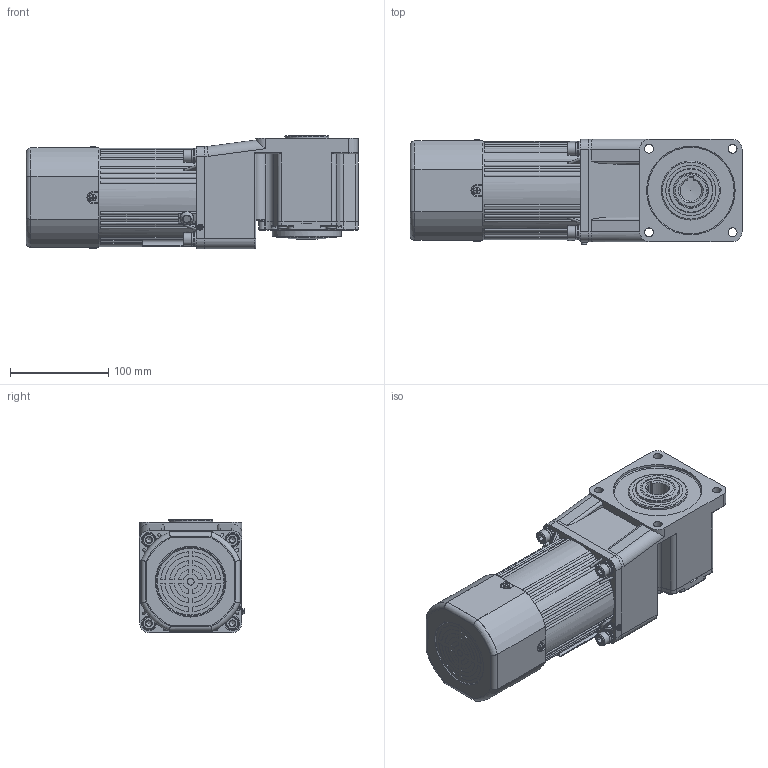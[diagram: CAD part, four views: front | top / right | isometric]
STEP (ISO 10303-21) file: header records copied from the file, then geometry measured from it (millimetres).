
FILE_DESCRIPTION(/* description */ (''),/* implementation_level */ '2;1');
FILE_NAME(/* name */ '100+直角中空-刹车调速风叶-120-140W 新版.stp',/* time_stamp */ '2025-03-25T15:09:27+08:00',/* author */ (''),/* organization */ (''),/* preprocessor_version */ 'ST-DEVELOPER v18.102',/* originating_system */ 'SIEMENS PLM Software NX 2027',/* authorisation */ '');
FILE_SCHEMA (('AP203_CONFIGURATION_CONTROLLED_3D_DESIGN_OF_MECHANICAL_PARTS_AND_ASSEMBLIES_MIM_LF { 1 0 10303 403 2 1 2}'));
Length unit declared in the file: millimetre
Products named in the file (1): 6RK120-140CC·MRF_6GU3-750K-C·15L_stp_objects
Bounding box: 337.5 x 106.83 x 115.53 mm (x, y, z)
Volume: 3214911.3 mm3; surface area: 428017.4 mm2
Topology: 24 solids, 24 shells, 1742 faces, 4501 edges, 2913 vertices
Faces by surface type: plane 764, cylinder 539, bspline 213, torus 104, cone 96, sphere 26
Full cylindrical faces by diameter (mm): 2.5 x2, 2.6 x2, 2.7 x1, 3 x1, 3.2 x2, 3.3 x6, 3.5 x6, 3.6 x4, 4 x4, 4.55 x2, 5.1 x2, 5.15 x2, 6 x10, 6.8 x12, 7 x2, 7.5 x2, 7.76 x4, 8.4 x4, 9 x13, 9.3 x1, 9.5 x4, 13 x4, 14 x8, 15 x5, 15.5 x2, 19 x2, 27 x1, 28 x1, 30 x3, 35 x1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
Entity records: 53830 total; most frequent: CARTESIAN_POINT 13554, ORIENTED_EDGE 8186, DIRECTION 7916, EDGE_CURVE 4093, AXIS2_PLACEMENT_3D 3139, VERTEX_POINT 2770, EDGE_LOOP 2208, ADVANCED_FACE 1741
